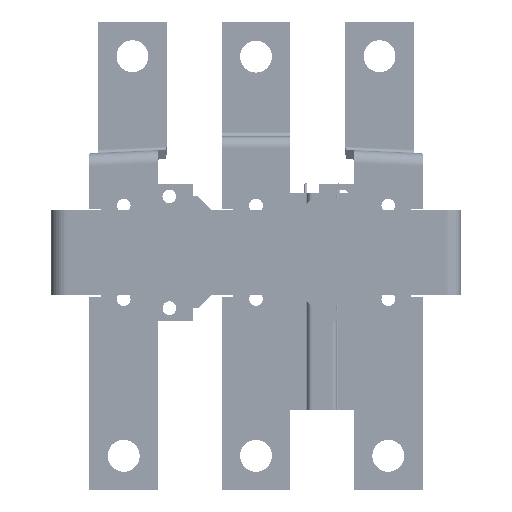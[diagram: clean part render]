
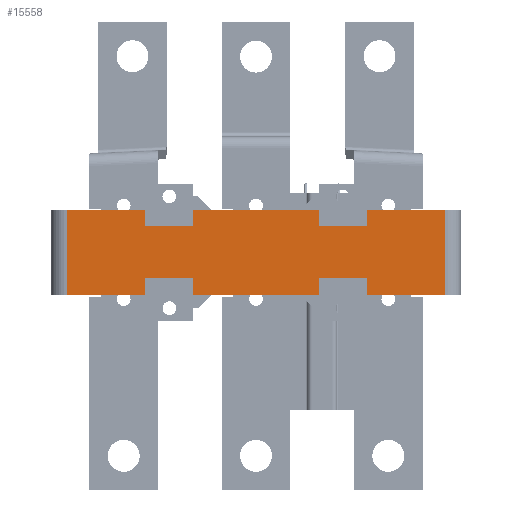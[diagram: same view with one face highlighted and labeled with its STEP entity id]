
A CAD part, left-side view. The second image highlights one B-rep face of the part: STEP entity #15558.
In plain terms, the highlighted planar face has unit normal (-1, 0, 0).
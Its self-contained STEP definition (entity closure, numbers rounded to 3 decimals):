
#6778=FACE_OUTER_BOUND('',#67108,.T.);
#15558=ADVANCED_FACE('F180',(#6778),#24575,.T.);
#24575=PLANE('',#169877);
#30697=LINE('',#229158,#48413);
#30701=LINE('',#229166,#48417);
#30713=LINE('',#229190,#48429);
#30725=LINE('',#229219,#48441);
#30727=LINE('',#229223,#48443);
#30740=LINE('',#229249,#48456);
#31020=LINE('',#229815,#48736);
#31027=LINE('',#229829,#48743);
#31043=LINE('',#229861,#48759);
#31066=LINE('',#229912,#48782);
#31068=LINE('',#229916,#48784);
#31070=LINE('',#229920,#48786);
#31085=LINE('',#229960,#48801);
#31173=LINE('',#230157,#48889);
#31174=LINE('',#230158,#48890);
#31175=LINE('',#230159,#48891);
#31177=LINE('',#230162,#48893);
#31178=LINE('',#230166,#48894);
#31179=LINE('',#230167,#48895);
#31180=LINE('',#230168,#48896);
#48413=VECTOR('',#183926,1.);
#48417=VECTOR('',#183932,1.);
#48429=VECTOR('',#183956,1.);
#48441=VECTOR('',#183980,1.);
#48443=VECTOR('',#183984,1.);
#48456=VECTOR('',#184009,1.);
#48736=VECTOR('',#184487,1.);
#48743=VECTOR('',#184498,1.);
#48759=VECTOR('',#184528,1.);
#48782=VECTOR('',#184573,1.);
#48784=VECTOR('',#184577,1.);
#48786=VECTOR('',#184581,1.);
#48801=VECTOR('',#184616,1.);
#48889=VECTOR('',#184792,1.);
#48890=VECTOR('',#184793,1.);
#48891=VECTOR('',#184794,1.);
#48893=VECTOR('',#184798,1.);
#48894=VECTOR('',#184803,1.);
#48895=VECTOR('',#184804,1.);
#48896=VECTOR('',#184805,1.);
#67108=EDGE_LOOP('',(#78410,#78411,#78412,#78413,#78414,#78415,#78416,#78417,
#78418,#78419,#78420,#78421,#78422,#78423,#78424,#78425,#78426,#78427,#78428,
#78429));
#78410=ORIENTED_EDGE('',*,*,#142215,.T.);
#78411=ORIENTED_EDGE('',*,*,#142217,.T.);
#78412=ORIENTED_EDGE('',*,*,#141759,.T.);
#78413=ORIENTED_EDGE('',*,*,#141744,.T.);
#78414=ORIENTED_EDGE('',*,*,#141746,.T.);
#78415=ORIENTED_EDGE('',*,*,#142218,.T.);
#78416=ORIENTED_EDGE('',*,*,#141730,.T.);
#78417=ORIENTED_EDGE('',*,*,#141714,.T.);
#78418=ORIENTED_EDGE('',*,*,#141718,.T.);
#78419=ORIENTED_EDGE('',*,*,#142219,.T.);
#78420=ORIENTED_EDGE('',*,*,#142112,.T.);
#78421=ORIENTED_EDGE('',*,*,#142213,.T.);
#78422=ORIENTED_EDGE('',*,*,#142048,.T.);
#78423=ORIENTED_EDGE('',*,*,#142041,.T.);
#78424=ORIENTED_EDGE('',*,*,#142064,.T.);
#78425=ORIENTED_EDGE('',*,*,#142212,.T.);
#78426=ORIENTED_EDGE('',*,*,#142089,.T.);
#78427=ORIENTED_EDGE('',*,*,#142091,.T.);
#78428=ORIENTED_EDGE('',*,*,#142093,.T.);
#78429=ORIENTED_EDGE('',*,*,#142211,.T.);
#125691=VERTEX_POINT('',#229157);
#125692=VERTEX_POINT('',#229159);
#125694=VERTEX_POINT('',#229165);
#125700=VERTEX_POINT('',#229189);
#125711=VERTEX_POINT('',#229218);
#125712=VERTEX_POINT('',#229220);
#125713=VERTEX_POINT('',#229224);
#125720=VERTEX_POINT('',#229250);
#125903=VERTEX_POINT('',#229809);
#125906=VERTEX_POINT('',#229814);
#125910=VERTEX_POINT('',#229825);
#125920=VERTEX_POINT('',#229860);
#125937=VERTEX_POINT('',#229911);
#125938=VERTEX_POINT('',#229913);
#125939=VERTEX_POINT('',#229917);
#125940=VERTEX_POINT('',#229921);
#125952=VERTEX_POINT('',#229955);
#125954=VERTEX_POINT('',#229959);
#126019=VERTEX_POINT('',#230156);
#126020=VERTEX_POINT('',#230163);
#141714=EDGE_CURVE('E114',#125692,#125691,#30697,.T.);
#141718=EDGE_CURVE('E108',#125691,#125694,#30701,.T.);
#141730=EDGE_CURVE('E112',#125700,#125692,#30713,.T.);
#141744=EDGE_CURVE('E368',#125712,#125711,#30725,.T.);
#141746=EDGE_CURVE('E366',#125711,#125713,#30727,.T.);
#141759=EDGE_CURVE('E362',#125720,#125712,#30740,.T.);
#142041=EDGE_CURVE('E113',#125903,#125906,#31020,.T.);
#142048=EDGE_CURVE('E103',#125910,#125903,#31027,.T.);
#142064=EDGE_CURVE('E105',#125906,#125920,#31043,.T.);
#142089=EDGE_CURVE('E359',#125938,#125937,#31066,.T.);
#142091=EDGE_CURVE('E367',#125937,#125939,#31068,.T.);
#142093=EDGE_CURVE('E357',#125939,#125940,#31070,.T.);
#142112=EDGE_CURVE('E134',#125952,#125954,#31085,.T.);
#142211=EDGE_CURVE('E509',#125940,#126019,#31173,.T.);
#142212=EDGE_CURVE('E510',#125920,#125938,#31174,.T.);
#142213=EDGE_CURVE('E512',#125954,#125910,#31175,.T.);
#142215=EDGE_CURVE('E388',#126019,#126020,#31177,.T.);
#142217=EDGE_CURVE('E520',#126020,#125720,#31178,.T.);
#142218=EDGE_CURVE('E524',#125713,#125700,#31179,.T.);
#142219=EDGE_CURVE('E523',#125694,#125952,#31180,.T.);
#169877=AXIS2_PLACEMENT_3D('',#230169,#184806,#184807);
#183926=DIRECTION('',(0.,-1.,0.));
#183932=DIRECTION('',(0.,0.,-1.));
#183956=DIRECTION('',(0.,0.,1.));
#183980=DIRECTION('',(0.,-1.,0.));
#183984=DIRECTION('',(0.,0.,-1.));
#184009=DIRECTION('',(0.,0.,1.));
#184487=DIRECTION('',(0.,1.,0.));
#184498=DIRECTION('',(0.,0.,-1.));
#184528=DIRECTION('',(0.,0.,1.));
#184573=DIRECTION('',(0.,0.,-1.));
#184577=DIRECTION('',(0.,1.,0.));
#184581=DIRECTION('',(0.,0.,1.));
#184616=DIRECTION('',(0.,0.,1.));
#184792=DIRECTION('',(0.,1.,0.));
#184793=DIRECTION('',(0.,1.,0.));
#184794=DIRECTION('',(0.,1.,0.));
#184798=DIRECTION('',(0.,0.,-1.));
#184803=DIRECTION('',(0.,-1.,0.));
#184804=DIRECTION('',(0.,-1.,0.));
#184805=DIRECTION('',(0.,-1.,0.));
#184806=DIRECTION('',(-1.,0.,0.));
#184807=DIRECTION('',(0.,-1.,0.));
#229157=CARTESIAN_POINT('',(9.122,-142.24,72.162));
#229158=CARTESIAN_POINT('',(9.122,-131.74,72.162));
#229159=CARTESIAN_POINT('',(9.122,-121.24,72.162));
#229165=CARTESIAN_POINT('',(9.122,-142.24,65.035));
#229166=CARTESIAN_POINT('',(9.122,-142.24,68.599));
#229189=CARTESIAN_POINT('',(9.122,-121.24,65.035));
#229190=CARTESIAN_POINT('',(9.122,-121.24,68.599));
#229218=CARTESIAN_POINT('',(9.122,-66.24,72.162));
#229219=CARTESIAN_POINT('',(9.122,-55.74,72.162));
#229220=CARTESIAN_POINT('',(9.122,-45.24,72.162));
#229223=CARTESIAN_POINT('',(9.122,-66.24,68.599));
#229224=CARTESIAN_POINT('',(9.122,-66.24,65.035));
#229249=CARTESIAN_POINT('',(9.122,-45.24,68.599));
#229250=CARTESIAN_POINT('',(9.122,-45.24,65.035));
#229809=CARTESIAN_POINT('',(9.122,-142.24,94.909));
#229814=CARTESIAN_POINT('',(9.122,-121.24,94.909));
#229815=CARTESIAN_POINT('',(9.122,-131.74,94.909));
#229825=CARTESIAN_POINT('',(9.122,-142.24,102.035));
#229829=CARTESIAN_POINT('',(9.122,-142.24,98.472));
#229860=CARTESIAN_POINT('',(9.122,-121.24,102.035));
#229861=CARTESIAN_POINT('',(9.122,-121.24,98.472));
#229911=CARTESIAN_POINT('',(9.122,-66.24,94.909));
#229912=CARTESIAN_POINT('',(9.122,-66.24,98.472));
#229913=CARTESIAN_POINT('',(9.122,-66.24,102.035));
#229916=CARTESIAN_POINT('',(9.122,-55.74,94.909));
#229917=CARTESIAN_POINT('',(9.122,-45.24,94.909));
#229920=CARTESIAN_POINT('',(9.122,-45.24,98.472));
#229921=CARTESIAN_POINT('',(9.122,-45.24,102.035));
#229955=CARTESIAN_POINT('',(9.122,-176.74,65.035));
#229959=CARTESIAN_POINT('',(9.122,-176.74,102.035));
#229960=CARTESIAN_POINT('',(9.122,-176.74,83.535));
#230156=CARTESIAN_POINT('',(9.122,-10.74,102.035));
#230157=CARTESIAN_POINT('',(9.122,-27.99,102.035));
#230158=CARTESIAN_POINT('',(9.122,-93.74,102.035));
#230159=CARTESIAN_POINT('',(9.122,-159.49,102.035));
#230162=CARTESIAN_POINT('',(9.122,-10.74,83.535));
#230163=CARTESIAN_POINT('',(9.122,-10.74,65.035));
#230166=CARTESIAN_POINT('',(9.122,-27.99,65.035));
#230167=CARTESIAN_POINT('',(9.122,-93.74,65.035));
#230168=CARTESIAN_POINT('',(9.122,-159.49,65.035));
#230169=CARTESIAN_POINT('',(9.122,-3.64,64.935));
